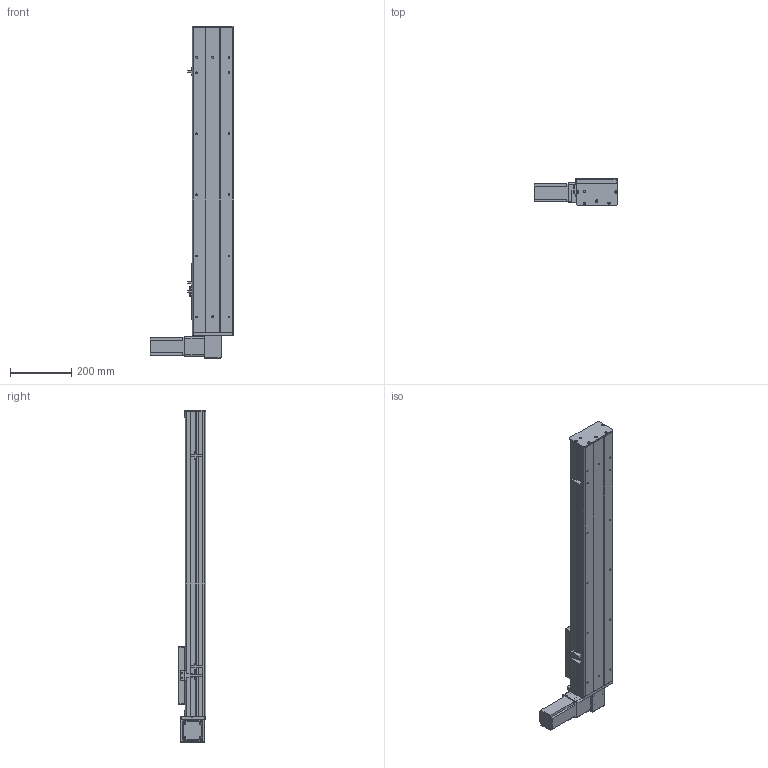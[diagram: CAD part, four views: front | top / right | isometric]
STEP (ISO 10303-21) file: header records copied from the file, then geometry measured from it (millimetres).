
FILE_DESCRIPTION (( 'STEP AP203' ), '1' );
FILE_NAME ('Y135CB-D90-S700-BD-P400W.STEP', '2020-02-19T03:03:05', ( '微软用户' ), ( '微软中国' ), 'SwSTEP 2.0', 'SolidWorks 2017', '' );
FILE_SCHEMA (( 'CONFIG_CONTROL_DESIGN' ));
Length unit declared in the file: millimetre
Products named in the file (16): 135CB--詩湍-CE; Y135CB-耜裔; Y100-135俋离換覜ん--; 135CB---遴掛极.-; Y135C-陔俋离換覜結え-; 35CB---喘謫眊楊擘啣; 5C--俋欶; 0B-埴倛裔啣; C-雄赽釱--; 0B-源倛裔啣; Y10B--々湍喘謫眊--666; san松下电机400不带刹车----; 0B-薊粣ん眊; 5CB --掛极耜裔啣-; Y135CB-D90-S700-BD-P400W; C-詩湍揤踡え-陔
Assembly tree (19 placements, depth 2):
  Y135CB-D90-S700-BD-P400W
    Y135CB-耜裔
    135CB---遴掛极.-
    35CB---喘謫眊楊擘啣
    0B-埴倛裔啣
    0B-源倛裔啣
    san松下电机400不带刹车----
    5CB --掛极耜裔啣-  x2
    C-詩湍揤踡え-陔  x2
    135CB--詩湍-CE
    Y100-135俋离換覜ん--  x3
    Y135C-陔俋离換覜結え-
    5C--俋欶
    C-雄赽釱--
    Y10B--々湍喘謫眊--666
    0B-薊粣ん眊
Bounding box: 272 x 91 x 1088 mm (x, y, z)
Volume: 3607605.1 mm3; surface area: 1359792.6 mm2
Topology: 19 solids, 19 shells, 851 faces, 2248 edges, 1488 vertices
Faces by surface type: cylinder 420, plane 415, cone 16
Entity records: 25804 total; most frequent: DIRECTION 4300, CARTESIAN_POINT 4203, ORIENTED_EDGE 3972, EDGE_CURVE 1986, AXIS2_PLACEMENT_3D 1573, VERTEX_POINT 1316, LINE 1154, VECTOR 1154
